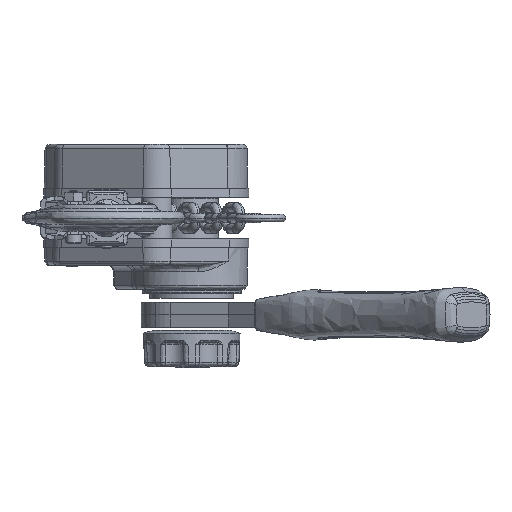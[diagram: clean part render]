
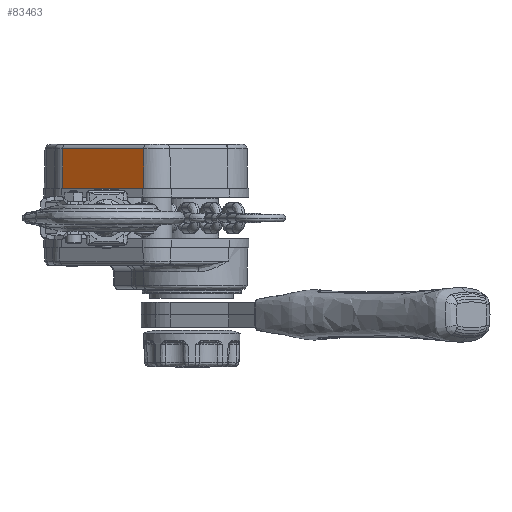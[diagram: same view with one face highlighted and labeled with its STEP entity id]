
A CAD part, front view. The second image highlights one B-rep face of the part: STEP entity #83463.
In plain terms, the highlighted free-form (B-spline) face has degree [1, 1] with [2, 2] control points.
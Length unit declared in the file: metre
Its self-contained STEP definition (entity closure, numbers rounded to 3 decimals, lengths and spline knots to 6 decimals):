
#3490 = CARTESIAN_POINT ( 'NONE',  ( -0.031923, -0.011675, 0.0135 ) ) ;
#3975 = CARTESIAN_POINT ( 'NONE',  ( 0.004938, -0.037858, 0.0135 ) ) ;
#8976 = CARTESIAN_POINT ( 'NONE',  ( 0.004938, -0.037858, 0.0135 ) ) ;
#12714 = CARTESIAN_POINT ( 'NONE',  ( -0.03174, -0.011419, 0.031535 ) ) ;
#13146 = EDGE_CURVE ( 'NONE', #31960, #53871, #68386, .T. ) ;
#15834 = ORIENTED_EDGE ( 'NONE', *, *, #13146, .T. ) ;
#17850 = B_SPLINE_SURFACE_WITH_KNOTS ( 'NONE', 1, 1, ( 
 ( #67177, #12714 ),
 ( #68727, #36344 ) ),
 .UNSPECIFIED., .F., .F., .F.,
 ( 2, 2 ),
 ( 2, 2 ),
 ( 0., 1. ),
 ( 0., 1. ),
 .UNSPECIFIED. ) ;
#20400 = FACE_OUTER_BOUND ( 'NONE', #34063, .T. ) ;
#25480 = CARTESIAN_POINT ( 'NONE',  ( -0.031923, -0.011675, 0.0135 ) ) ;
#31960 = VERTEX_POINT ( 'NONE', #3490 ) ;
#33362 = VERTEX_POINT ( 'NONE', #65873 ) ;
#34063 = EDGE_LOOP ( 'NONE', ( #55268, #15834, #94572, #60295 ) ) ;
#36344 = CARTESIAN_POINT ( 'NONE',  ( 0.00512, -0.037602, 0.031535 ) ) ;
#37844 = B_SPLINE_CURVE_WITH_KNOTS ( 'NONE', 1,
 ( #95909, #25480 ),
 .UNSPECIFIED., .F., .F.,
 ( 2, 2 ),
 ( 0., 1. ),
 .UNSPECIFIED. ) ;
#37970 = CARTESIAN_POINT ( 'NONE',  ( -0.03174, -0.011419, 0.031535 ) ) ;
#38483 = EDGE_CURVE ( 'NONE', #33362, #44907, #91198, .T. ) ;
#44907 = VERTEX_POINT ( 'NONE', #37970 ) ;
#53433 = CARTESIAN_POINT ( 'NONE',  ( -0.03174, -0.011419, 0.031535 ) ) ;
#53871 = VERTEX_POINT ( 'NONE', #8976 ) ;
#53934 = CARTESIAN_POINT ( 'NONE',  ( 0.00512, -0.037602, 0.031535 ) ) ;
#55268 = ORIENTED_EDGE ( 'NONE', *, *, #90642, .T. ) ;
#60295 = ORIENTED_EDGE ( 'NONE', *, *, #38483, .T. ) ;
#60376 = CARTESIAN_POINT ( 'NONE',  ( 0.00512, -0.037602, 0.031535 ) ) ;
#65873 = CARTESIAN_POINT ( 'NONE',  ( 0.00512, -0.037602, 0.031535 ) ) ;
#67177 = CARTESIAN_POINT ( 'NONE',  ( -0.031923, -0.011675, 0.0135 ) ) ;
#68386 = B_SPLINE_CURVE_WITH_KNOTS ( 'NONE', 1,
 ( #83572, #3975 ),
 .UNSPECIFIED., .F., .F.,
 ( 2, 2 ),
 ( 0., 1. ),
 .UNSPECIFIED. ) ;
#68727 = CARTESIAN_POINT ( 'NONE',  ( 0.004938, -0.037858, 0.0135 ) ) ;
#83463 = ADVANCED_FACE ( 'NONE', ( #20400 ), #17850, .T. ) ;
#83572 = CARTESIAN_POINT ( 'NONE',  ( -0.031923, -0.011675, 0.0135 ) ) ;
#84032 = CARTESIAN_POINT ( 'NONE',  ( 0.004938, -0.037858, 0.0135 ) ) ;
#90642 = EDGE_CURVE ( 'NONE', #44907, #31960, #37844, .T. ) ;
#90714 = EDGE_CURVE ( 'NONE', #53871, #33362, #93020, .T. ) ;
#91198 = B_SPLINE_CURVE_WITH_KNOTS ( 'NONE', 1,
 ( #53934, #53433 ),
 .UNSPECIFIED., .F., .F.,
 ( 2, 2 ),
 ( 0., 1. ),
 .UNSPECIFIED. ) ;
#93020 = B_SPLINE_CURVE_WITH_KNOTS ( 'NONE', 1,
 ( #84032, #60376 ),
 .UNSPECIFIED., .F., .F.,
 ( 2, 2 ),
 ( 0., 1. ),
 .UNSPECIFIED. ) ;
#94572 = ORIENTED_EDGE ( 'NONE', *, *, #90714, .T. ) ;
#95909 = CARTESIAN_POINT ( 'NONE',  ( -0.03174, -0.011419, 0.031535 ) ) ;
